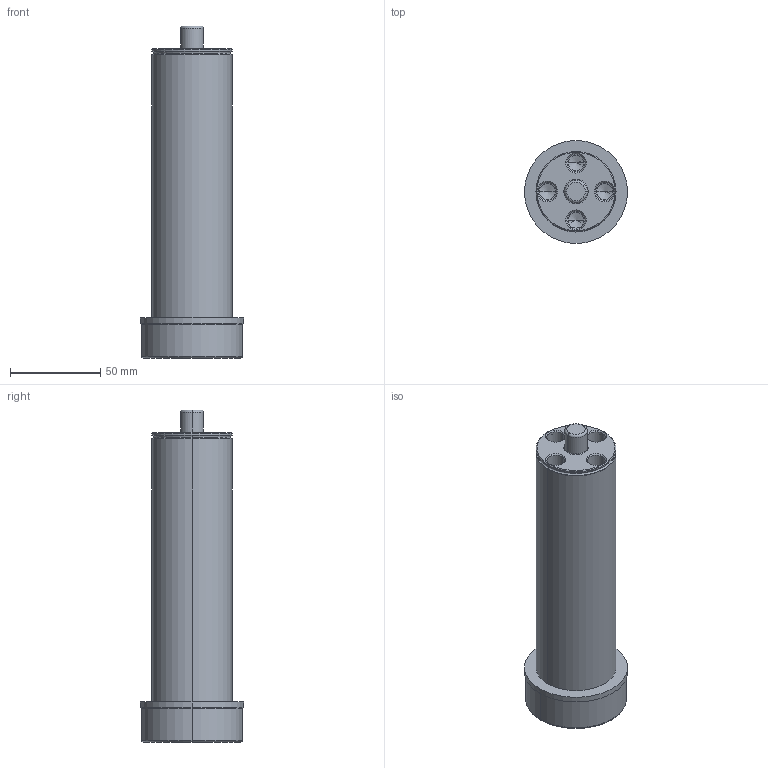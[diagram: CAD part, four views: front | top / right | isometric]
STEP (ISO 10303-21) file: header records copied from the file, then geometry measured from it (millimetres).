
FILE_DESCRIPTION (( 'STEP AP214' ), '1' );
FILE_NAME ('GK175-M-6-GuidePin.STEP', '2010-11-16T20:34:25', ( ' ' ), ( '' ), 'SwSTEP 2.0', 'SolidWorks 2010', '' );
FILE_SCHEMA (( 'AUTOMOTIVE_DESIGN' ));
Length unit declared in the file: inch
Products named in the file (1): GK175-M-6-GuidePin
Bounding box: 57.15 x 57.15 x 184.15 mm (x, y, z)
Volume: 278389.4 mm3; surface area: 36533.3 mm2
Topology: 2 solids, 2 shells, 76 faces, 158 edges, 84 vertices
Faces by surface type: cylinder 28, cone 24, torus 18, plane 6
Entity records: 2237 total; most frequent: DIRECTION 402, CARTESIAN_POINT 311, ORIENTED_EDGE 300, AXIS2_PLACEMENT_3D 175, EDGE_CURVE 150, CIRCLE 98, EDGE_LOOP 84, VERTEX_POINT 84
